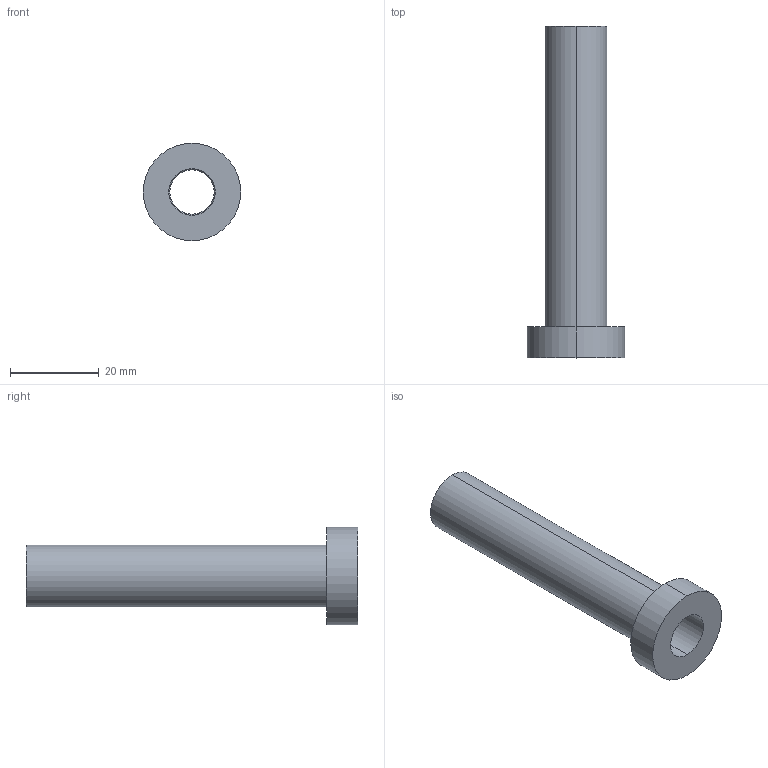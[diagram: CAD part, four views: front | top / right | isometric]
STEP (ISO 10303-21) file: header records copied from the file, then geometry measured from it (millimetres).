
FILE_DESCRIPTION (( 'STEP AP214' ), '1' );
FILE_NAME ('ET-ETN-10x75.STEP', '2019-12-16T17:12:38', ( 'August' ), ( '' ), 'SwSTEP 2.0', 'SolidWorks 2018', '' );
FILE_SCHEMA (( 'AUTOMOTIVE_DESIGN' ));
Length unit declared in the file: millimetre
Products named in the file (1): ET-ETN-10x75
Bounding box: 22 x 75 x 22 mm (x, y, z)
Volume: 7038 mm3; surface area: 6468.3 mm2
Topology: 1 solids, 1 shells, 13 faces, 26 edges, 16 vertices
Faces by surface type: cylinder 8, plane 3, cone 2
Entity records: 382 total; most frequent: DIRECTION 70, CARTESIAN_POINT 56, ORIENTED_EDGE 52, AXIS2_PLACEMENT_3D 30, EDGE_CURVE 26, EDGE_LOOP 16, CIRCLE 16, VERTEX_POINT 16
